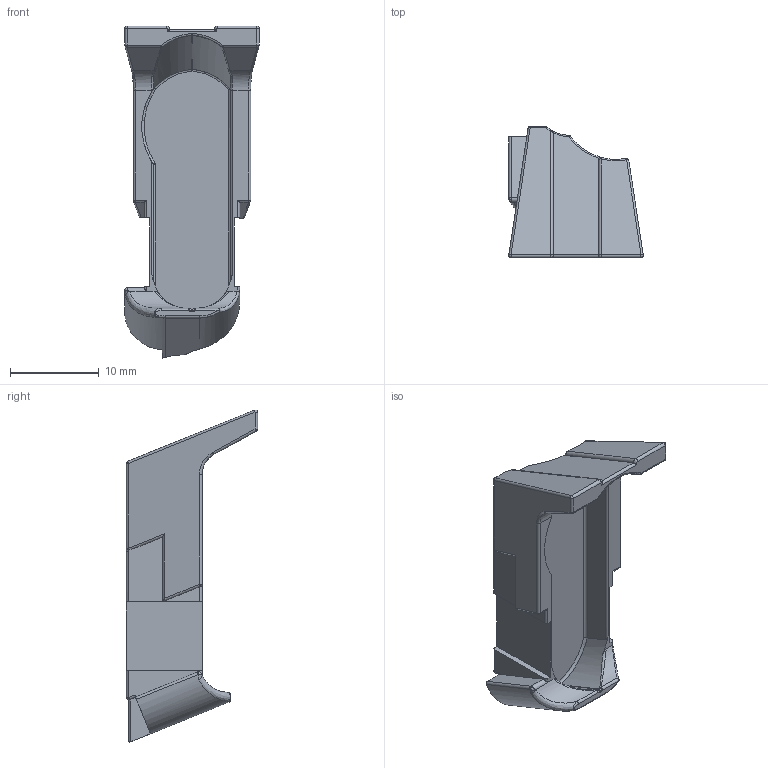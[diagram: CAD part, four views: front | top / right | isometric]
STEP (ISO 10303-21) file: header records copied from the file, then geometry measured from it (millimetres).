
FILE_DESCRIPTION(/* description */ (''),/* implementation_level */ '2;1');
FILE_NAME(/* name */ 'C:\Users\johne\Desktop\Menendez Mag 17\STEP\Menendez Mag Follower V1.11.stp',/* time_stamp */ '2019-06-27T23:09:51-05:00',/* author */ ('johne'),/* organization */ (''),/* preprocessor_version */ 'ST-DEVELOPER v16.13',/* originating_system */ 'Autodesk Inventor 2018',/* authorisation */ '');
FILE_SCHEMA (('AUTOMOTIVE_DESIGN { 1 0 10303 214 3 1 1 }'));
Length unit declared in the file: inch
Products named in the file (1): Menendez Mag Follower V1.12
Bounding box: 15.16 x 14.8 x 37.46 mm (x, y, z)
Volume: 1744.9 mm3; surface area: 1890.4 mm2
Topology: 1 solids, 1 shells, 171 faces, 423 edges, 250 vertices
Faces by surface type: cylinder 65, bspline 42, plane 41, sphere 20, torus 3
Entity records: 6282 total; most frequent: CARTESIAN_POINT 2326, ORIENTED_EDGE 830, DIRECTION 829, EDGE_CURVE 415, AXIS2_PLACEMENT_3D 336, VERTEX_POINT 246, FACE_OUTER_BOUND 171, EDGE_LOOP 171
